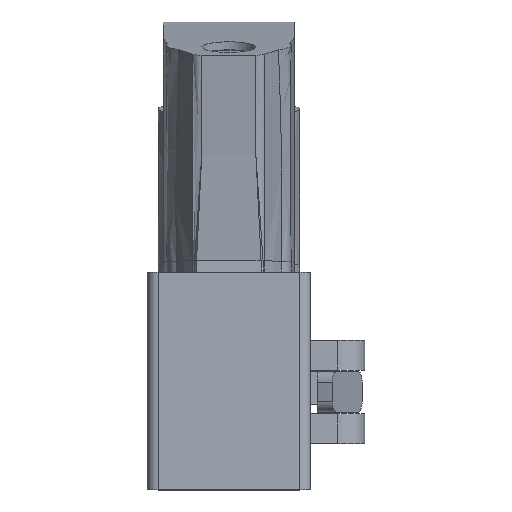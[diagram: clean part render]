
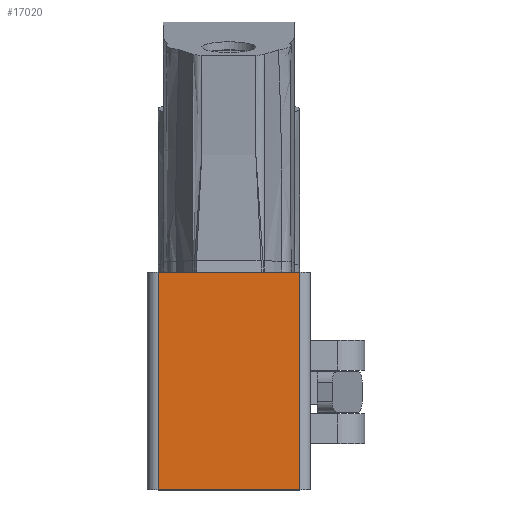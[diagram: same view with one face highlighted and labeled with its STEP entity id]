
A CAD part, front view. The second image highlights one B-rep face of the part: STEP entity #17020.
In plain terms, the highlighted planar face has unit normal (0, -1, 0.001) as drawn and (0, 0, 1) by its records, which use the part's own axes.
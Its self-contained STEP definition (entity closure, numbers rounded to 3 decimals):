
#1086=PLANE('',#17656);
#2487=LINE('',#33297,#3943);
#2558=LINE('',#33470,#4014);
#2559=LINE('',#33473,#4015);
#2560=LINE('',#33474,#4016);
#3943=VECTOR('',#20032,10.);
#4014=VECTOR('',#20213,10.);
#4015=VECTOR('',#20216,10.);
#4016=VECTOR('',#20217,10.);
#4968=FACE_OUTER_BOUND('',#5973,.T.);
#5973=EDGE_LOOP('',(#15800,#15801,#15802,#15803));
#8396=VERTEX_POINT('',#33294);
#8397=VERTEX_POINT('',#33296);
#8444=VERTEX_POINT('',#33468);
#8445=VERTEX_POINT('',#33472);
#10828=EDGE_CURVE('',#8396,#8397,#2487,.T.);
#10915=EDGE_CURVE('',#8444,#8396,#2558,.T.);
#10916=EDGE_CURVE('',#8445,#8444,#2559,.T.);
#10917=EDGE_CURVE('',#8397,#8445,#2560,.T.);
#15800=ORIENTED_EDGE('',*,*,#10915,.F.);
#15801=ORIENTED_EDGE('',*,*,#10916,.F.);
#15802=ORIENTED_EDGE('',*,*,#10917,.F.);
#15803=ORIENTED_EDGE('',*,*,#10828,.F.);
#17020=ADVANCED_FACE('',(#4968),#1086,.T.);
#17656=AXIS2_PLACEMENT_3D('',#33471,#20214,#20215);
#20032=DIRECTION('',(-1.,0.,0.));
#20213=DIRECTION('',(0.,-1.,0.));
#20214=DIRECTION('center_axis',(0.,0.,1.));
#20215=DIRECTION('ref_axis',(1.,0.,0.));
#20216=DIRECTION('',(1.,0.,0.));
#20217=DIRECTION('',(0.,1.,0.));
#33294=CARTESIAN_POINT('',(13.,0.,35.));
#33296=CARTESIAN_POINT('',(-13.,0.,35.));
#33297=CARTESIAN_POINT('',(15.,0.,35.));
#33468=CARTESIAN_POINT('',(13.,40.,35.));
#33470=CARTESIAN_POINT('',(13.,0.,35.));
#33471=CARTESIAN_POINT('Origin',(-15.,0.,35.));
#33472=CARTESIAN_POINT('',(-13.,40.,35.));
#33473=CARTESIAN_POINT('',(15.,40.,35.));
#33474=CARTESIAN_POINT('',(-13.,0.,35.));
